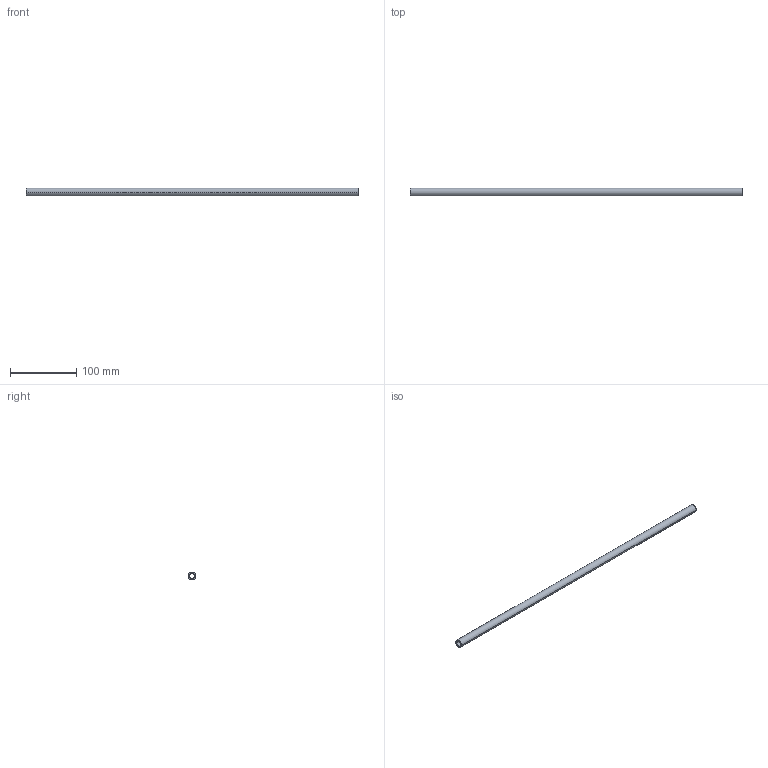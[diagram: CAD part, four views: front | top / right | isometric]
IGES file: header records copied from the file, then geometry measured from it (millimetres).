
Start section: START RECORD GO HERE.
Global section: file name: te128500.igs; native system: DASSAULT SYSTEMES CATIA V5 R20 - www.3ds.com; preprocessor: CATIA Version 5 Release 20 ; author: Utente; organization: NB04-ASUS; date: 20201107.142431; units: millimetre
Bounding box: 500 x 12 x 12 mm (x, y, z)
Surface area: 31827.5 mm2 (no closed solid volume)
Topology: 0 solids, 0 shells, 9 faces, 36 edges, 36 vertices
Faces by surface type: revolution 6, plane 3
